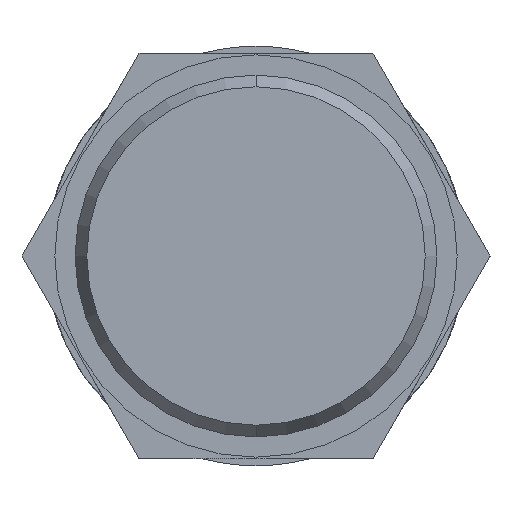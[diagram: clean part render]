
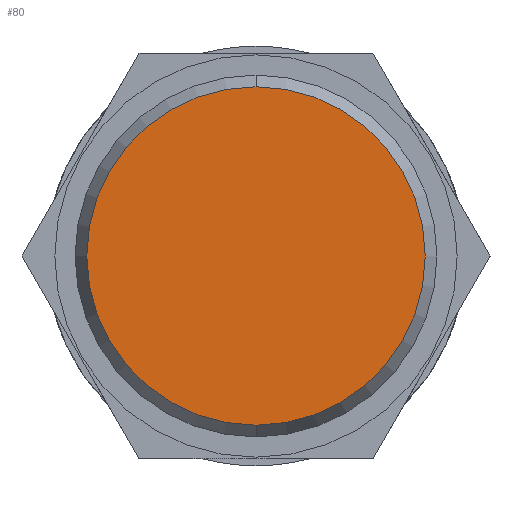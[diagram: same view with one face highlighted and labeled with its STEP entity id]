
A CAD part, left-side view. The second image highlights one B-rep face of the part: STEP entity #80.
In plain terms, the highlighted planar face has unit normal (-1, 0, 0).
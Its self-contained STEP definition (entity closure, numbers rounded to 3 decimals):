
#8 = DIRECTION ( 'NONE',  ( -1., 0., 0. ) ) ;
#44 = CARTESIAN_POINT ( 'NONE',  ( 0., 0., -8.35 ) ) ;
#47 = VERTEX_POINT ( 'NONE', #60 ) ;
#60 = CARTESIAN_POINT ( 'NONE',  ( 0., 0., 8.35 ) ) ;
#80 = ADVANCED_FACE ( 'NONE', ( #921 ), #772, .T. ) ;
#85 = DIRECTION ( 'NONE',  ( 0., 0., 1. ) ) ;
#104 = DIRECTION ( 'NONE',  ( 1., 0., 0. ) ) ;
#194 = CIRCLE ( 'NONE', #1105, 8.35 ) ;
#263 = CARTESIAN_POINT ( 'NONE',  ( 0., 0., 0. ) ) ;
#344 = VERTEX_POINT ( 'NONE', #44 ) ;
#371 = AXIS2_PLACEMENT_3D ( 'NONE', #606, #8, #85 ) ;
#409 = CIRCLE ( 'NONE', #1174, 8.35 ) ;
#494 = DIRECTION ( 'NONE',  ( 0., 0., -1. ) ) ;
#511 = ORIENTED_EDGE ( 'NONE', *, *, #680, .F. ) ;
#606 = CARTESIAN_POINT ( 'NONE',  ( 0., 0., 0. ) ) ;
#631 = CARTESIAN_POINT ( 'NONE',  ( 0., 0., 0. ) ) ;
#653 = DIRECTION ( 'NONE',  ( 1., 0., 0. ) ) ;
#669 = EDGE_CURVE ( 'NONE', #344, #47, #194, .T. ) ;
#680 = EDGE_CURVE ( 'NONE', #47, #344, #409, .T. ) ;
#772 = PLANE ( 'NONE',  #371 ) ;
#777 = DIRECTION ( 'NONE',  ( 0., 0., -1. ) ) ;
#872 = EDGE_LOOP ( 'NONE', ( #1112, #511 ) ) ;
#921 = FACE_OUTER_BOUND ( 'NONE', #872, .T. ) ;
#1105 = AXIS2_PLACEMENT_3D ( 'NONE', #263, #104, #494 ) ;
#1112 = ORIENTED_EDGE ( 'NONE', *, *, #669, .F. ) ;
#1174 = AXIS2_PLACEMENT_3D ( 'NONE', #631, #653, #777 ) ;
